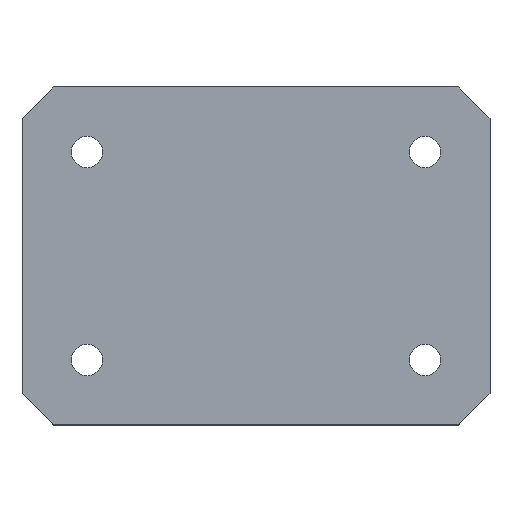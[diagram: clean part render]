
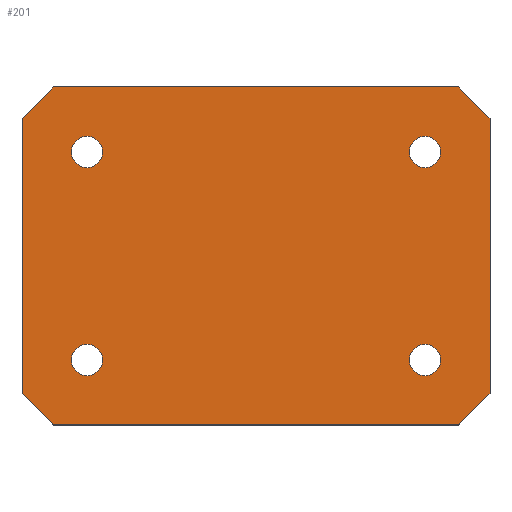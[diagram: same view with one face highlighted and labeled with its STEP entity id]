
A CAD part, top view. The second image highlights one B-rep face of the part: STEP entity #201.
In plain terms, the highlighted planar face has unit normal (0, 0, 1).
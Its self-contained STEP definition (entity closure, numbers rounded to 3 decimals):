
#131 = EDGE_CURVE( '', #261, #243, #346, .T. );
#141 = EDGE_CURVE( '', #237, #235, #357, .T. );
#143 = EDGE_CURVE( '', #155, #261, #359, .T. );
#155 = VERTEX_POINT( '', #374 );
#167 = VERTEX_POINT( '', #386 );
#173 = EDGE_CURVE( '', #167, #155, #392, .T. );
#193 = VERTEX_POINT( '', #415 );
#195 = EDGE_CURVE( '', #283, #193, #417, .T. );
#199 = EDGE_CURVE( '', #285, #227, #421, .T. );
#201 = ADVANCED_FACE( '', ( #423, #424, #425, #426, #427 ), #428, .T. );
#205 = VERTEX_POINT( '', #432 );
#213 = EDGE_CURVE( '', #193, #315, #442, .T. );
#215 = EDGE_CURVE( '', #315, #167, #444, .T. );
#221 = EDGE_CURVE( '', #205, #259, #455, .T. );
#225 = VERTEX_POINT( '', #459 );
#227 = VERTEX_POINT( '', #461 );
#235 = VERTEX_POINT( '', #471 );
#237 = VERTEX_POINT( '', #473 );
#243 = VERTEX_POINT( '', #479 );
#245 = EDGE_CURVE( '', #235, #237, #481, .T. );
#247 = EDGE_CURVE( '', #243, #295, #483, .T. );
#251 = EDGE_CURVE( '', #227, #285, #487, .T. );
#259 = VERTEX_POINT( '', #495 );
#261 = VERTEX_POINT( '', #497 );
#275 = EDGE_CURVE( '', #317, #225, #512, .T. );
#283 = VERTEX_POINT( '', #522 );
#285 = VERTEX_POINT( '', #524 );
#295 = VERTEX_POINT( '', #534 );
#303 = EDGE_CURVE( '', #259, #205, #542, .T. );
#311 = EDGE_CURVE( '', #295, #283, #551, .T. );
#313 = EDGE_CURVE( '', #225, #317, #553, .T. );
#315 = VERTEX_POINT( '', #555 );
#317 = VERTEX_POINT( '', #557 );
#346 = LINE( '', #580, #581 );
#357 = CIRCLE( '', #597, 3. );
#359 = LINE( '', #600, #601 );
#374 = CARTESIAN_POINT( '', ( -6.5, -12.5, 2. ) );
#386 = CARTESIAN_POINT( '', ( 71.5, -12.5, 2. ) );
#392 = LINE( '', #648, #649 );
#415 = CARTESIAN_POINT( '', ( 77.5, 46.5, 2. ) );
#417 = LINE( '', #684, #685 );
#421 = CIRCLE( '', #692, 3. );
#423 = FACE_BOUND( '', #694, .T. );
#424 = FACE_BOUND( '', #695, .T. );
#425 = FACE_BOUND( '', #696, .T. );
#426 = FACE_BOUND( '', #697, .T. );
#427 = FACE_OUTER_BOUND( '', #698, .T. );
#428 = PLANE( '', #699 );
#432 = CARTESIAN_POINT( '', ( 68., 0., 2. ) );
#442 = LINE( '', #718, #719 );
#444 = LINE( '', #722, #723 );
#455 = CIRCLE( '', #737, 3. );
#459 = CARTESIAN_POINT( '', ( 3., 40., 2. ) );
#461 = CARTESIAN_POINT( '', ( -3., 0., 2. ) );
#471 = CARTESIAN_POINT( '', ( 62., 40., 2. ) );
#473 = CARTESIAN_POINT( '', ( 68., 40., 2. ) );
#479 = CARTESIAN_POINT( '', ( -12.5, 46.5, 2. ) );
#481 = CIRCLE( '', #766, 3. );
#483 = LINE( '', #769, #770 );
#487 = CIRCLE( '', #775, 3. );
#495 = CARTESIAN_POINT( '', ( 62., 0., 2. ) );
#497 = CARTESIAN_POINT( '', ( -12.5, -6.5, 2. ) );
#512 = CIRCLE( '', #806, 3. );
#522 = CARTESIAN_POINT( '', ( 71.5, 52.5, 2. ) );
#524 = CARTESIAN_POINT( '', ( 3., 0., 2. ) );
#534 = CARTESIAN_POINT( '', ( -6.5, 52.5, 2. ) );
#542 = CIRCLE( '', #846, 3. );
#551 = LINE( '', #856, #857 );
#553 = CIRCLE( '', #860, 3. );
#555 = CARTESIAN_POINT( '', ( 77.5, -6.5, 2. ) );
#557 = CARTESIAN_POINT( '', ( -3., 40., 2. ) );
#580 = CARTESIAN_POINT( '', ( -12.5, 46.5, 2. ) );
#581 = VECTOR( '', #882, 1. );
#597 = AXIS2_PLACEMENT_3D( '', #893, #894, #895 );
#600 = CARTESIAN_POINT( '', ( -12.5, -6.5, 2. ) );
#601 = VECTOR( '', #896, 1. );
#648 = CARTESIAN_POINT( '', ( -6.5, -12.5, 2. ) );
#649 = VECTOR( '', #930, 1. );
#684 = CARTESIAN_POINT( '', ( 77.5, 46.5, 2. ) );
#685 = VECTOR( '', #962, 1. );
#692 = AXIS2_PLACEMENT_3D( '', #964, #965, #966 );
#694 = EDGE_LOOP( '', ( #968, #969 ) );
#695 = EDGE_LOOP( '', ( #970, #971 ) );
#696 = EDGE_LOOP( '', ( #972, #973 ) );
#697 = EDGE_LOOP( '', ( #974, #975 ) );
#698 = EDGE_LOOP( '', ( #976, #977, #978, #979, #980, #981, #982, #983 ) );
#699 = AXIS2_PLACEMENT_3D( '', #984, #985, #986 );
#718 = CARTESIAN_POINT( '', ( 77.5, -6.5, 2. ) );
#719 = VECTOR( '', #1005, 1. );
#722 = CARTESIAN_POINT( '', ( 71.5, -12.5, 2. ) );
#723 = VECTOR( '', #1006, 1. );
#737 = AXIS2_PLACEMENT_3D( '', #1028, #1029, #1030 );
#766 = AXIS2_PLACEMENT_3D( '', #1053, #1054, #1055 );
#769 = CARTESIAN_POINT( '', ( -6.5, 52.5, 2. ) );
#770 = VECTOR( '', #1056, 1. );
#775 = AXIS2_PLACEMENT_3D( '', #1057, #1058, #1059 );
#806 = AXIS2_PLACEMENT_3D( '', #1072, #1073, #1074 );
#846 = AXIS2_PLACEMENT_3D( '', #1103, #1104, #1105 );
#856 = CARTESIAN_POINT( '', ( 71.5, 52.5, 2. ) );
#857 = VECTOR( '', #1114, 1. );
#860 = AXIS2_PLACEMENT_3D( '', #1115, #1116, #1117 );
#882 = DIRECTION( '', ( 0., 1., 0. ) );
#893 = CARTESIAN_POINT( '', ( 65., 40., 2. ) );
#894 = DIRECTION( '', ( 0., 0., -1. ) );
#895 = DIRECTION( '', ( 1., 0., 0. ) );
#896 = DIRECTION( '', ( -0.707, 0.707, 0. ) );
#930 = DIRECTION( '', ( -1., 0., 0. ) );
#962 = DIRECTION( '', ( 0.707, -0.707, 0. ) );
#964 = CARTESIAN_POINT( '', ( 0., 0., 2. ) );
#965 = DIRECTION( '', ( 0., 0., -1. ) );
#966 = DIRECTION( '', ( 1., 0., 0. ) );
#968 = ORIENTED_EDGE( '', *, *, #221, .T. );
#969 = ORIENTED_EDGE( '', *, *, #303, .T. );
#970 = ORIENTED_EDGE( '', *, *, #141, .T. );
#971 = ORIENTED_EDGE( '', *, *, #245, .T. );
#972 = ORIENTED_EDGE( '', *, *, #313, .T. );
#973 = ORIENTED_EDGE( '', *, *, #275, .T. );
#974 = ORIENTED_EDGE( '', *, *, #199, .T. );
#975 = ORIENTED_EDGE( '', *, *, #251, .T. );
#976 = ORIENTED_EDGE( '', *, *, #247, .F. );
#977 = ORIENTED_EDGE( '', *, *, #131, .F. );
#978 = ORIENTED_EDGE( '', *, *, #143, .F. );
#979 = ORIENTED_EDGE( '', *, *, #173, .F. );
#980 = ORIENTED_EDGE( '', *, *, #215, .F. );
#981 = ORIENTED_EDGE( '', *, *, #213, .F. );
#982 = ORIENTED_EDGE( '', *, *, #195, .F. );
#983 = ORIENTED_EDGE( '', *, *, #311, .F. );
#984 = CARTESIAN_POINT( '', ( 0., 0., 2. ) );
#985 = DIRECTION( '', ( 0., 0., 1. ) );
#986 = DIRECTION( '', ( 1., 0., 0. ) );
#1005 = DIRECTION( '', ( 0., -1., 0. ) );
#1006 = DIRECTION( '', ( -0.707, -0.707, 0. ) );
#1028 = CARTESIAN_POINT( '', ( 65., 0., 2. ) );
#1029 = DIRECTION( '', ( 0., 0., -1. ) );
#1030 = DIRECTION( '', ( 1., 0., 0. ) );
#1053 = CARTESIAN_POINT( '', ( 65., 40., 2. ) );
#1054 = DIRECTION( '', ( 0., 0., -1. ) );
#1055 = DIRECTION( '', ( 1., 0., 0. ) );
#1056 = DIRECTION( '', ( 0.707, 0.707, 0. ) );
#1057 = CARTESIAN_POINT( '', ( 0., 0., 2. ) );
#1058 = DIRECTION( '', ( 0., 0., -1. ) );
#1059 = DIRECTION( '', ( 1., 0., 0. ) );
#1072 = CARTESIAN_POINT( '', ( 0., 40., 2. ) );
#1073 = DIRECTION( '', ( 0., 0., -1. ) );
#1074 = DIRECTION( '', ( 1., 0., 0. ) );
#1103 = CARTESIAN_POINT( '', ( 65., 0., 2. ) );
#1104 = DIRECTION( '', ( 0., 0., -1. ) );
#1105 = DIRECTION( '', ( 1., 0., 0. ) );
#1114 = DIRECTION( '', ( 1., 0., 0. ) );
#1115 = CARTESIAN_POINT( '', ( 0., 40., 2. ) );
#1116 = DIRECTION( '', ( 0., 0., -1. ) );
#1117 = DIRECTION( '', ( 1., 0., 0. ) );
